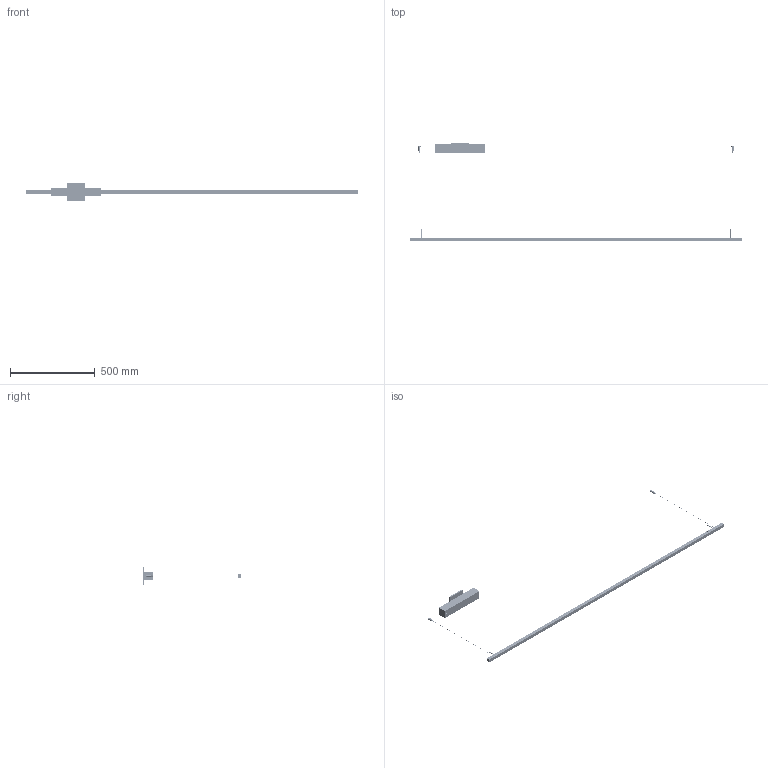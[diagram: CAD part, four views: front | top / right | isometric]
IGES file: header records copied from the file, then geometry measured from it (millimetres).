
Start section: SolidWorks IGES file using analytic representation for surfaces
Global section: file name: C:\Users\dtentori\Desktop\3d sito usa\LINESCAPES PENDANT L200\LINESCAPES PEND H L200.IGS; native system: SolidWorks 2016; preprocessor: SolidWorks 2016; author: dtentori; date: 170728.163923; units: millimetre
Bounding box: 1955.4 x 576 x 109 mm (x, y, z)
Surface area: 598381.2 mm2 (no closed solid volume)
Topology: 0 solids, 0 shells, 8126 faces, 67638 edges, 67496 vertices
Faces by surface type: bspline 6378, revolution 1748
